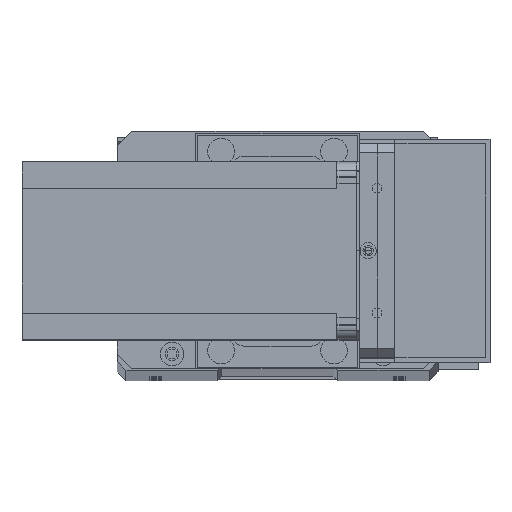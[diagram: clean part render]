
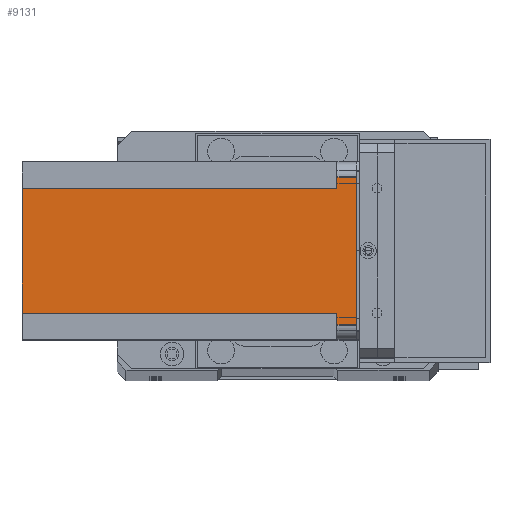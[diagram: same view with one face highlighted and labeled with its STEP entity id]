
A CAD part, top view. The second image highlights one B-rep face of the part: STEP entity #9131.
In plain terms, the highlighted planar face has unit normal (0, 0, 1) as drawn and (1, 0, 0) by its records, which use the part's own axes.
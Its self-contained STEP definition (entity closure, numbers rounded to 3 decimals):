
#40 = ORIENTED_EDGE ( 'NONE', *, *, #22605, .F. ) ;
#175 = VERTEX_POINT ( 'NONE', #1364 ) ;
#187 = DIRECTION ( 'NONE',  ( 0., 0., 1. ) ) ;
#461 = VECTOR ( 'NONE', #5961, 1000. ) ;
#1184 = LINE ( 'NONE', #25109, #13922 ) ;
#1364 = CARTESIAN_POINT ( 'NONE',  ( 60., 9., -112.5 ) ) ;
#2664 = VERTEX_POINT ( 'NONE', #5944 ) ;
#3176 = EDGE_CURVE ( 'NONE', #11532, #20315, #3982, .T. ) ;
#3388 = CARTESIAN_POINT ( 'NONE',  ( 60., 0., 0. ) ) ;
#3422 = DIRECTION ( 'NONE',  ( 0., 0., -1. ) ) ;
#3982 = LINE ( 'NONE', #25624, #17516 ) ;
#4490 = VERTEX_POINT ( 'NONE', #8053 ) ;
#4565 = LINE ( 'NONE', #12647, #22471 ) ;
#5944 = CARTESIAN_POINT ( 'NONE',  ( 60., 51., -6.5 ) ) ;
#5961 = DIRECTION ( 'NONE',  ( 0., 1., 0. ) ) ;
#6585 = LINE ( 'NONE', #20280, #18510 ) ;
#7679 = CARTESIAN_POINT ( 'NONE',  ( 60., 5., 0. ) ) ;
#7972 = ORIENTED_EDGE ( 'NONE', *, *, #11716, .T. ) ;
#8053 = CARTESIAN_POINT ( 'NONE',  ( 60., 51., -112.5 ) ) ;
#8275 = DIRECTION ( 'NONE',  ( 0., 0., -1. ) ) ;
#8469 = ORIENTED_EDGE ( 'NONE', *, *, #24293, .T. ) ;
#9131 = ADVANCED_FACE ( 'NONE', ( #23626 ), #11450, .T. ) ;
#9775 = VERTEX_POINT ( 'NONE', #32024 ) ;
#10034 = VERTEX_POINT ( 'NONE', #7679 ) ;
#10378 = DIRECTION ( 'NONE',  ( 0., -1., 0. ) ) ;
#11114 = ORIENTED_EDGE ( 'NONE', *, *, #14946, .F. ) ;
#11450 = PLANE ( 'NONE',  #20846 ) ;
#11532 = VERTEX_POINT ( 'NONE', #27817 ) ;
#11716 = EDGE_CURVE ( 'NONE', #10034, #20315, #11909, .T. ) ;
#11909 = LINE ( 'NONE', #18652, #13485 ) ;
#12647 = CARTESIAN_POINT ( 'NONE',  ( 60., 55., -112.5 ) ) ;
#13235 = ORIENTED_EDGE ( 'NONE', *, *, #3176, .F. ) ;
#13421 = EDGE_CURVE ( 'NONE', #14266, #9775, #4565, .T. ) ;
#13485 = VECTOR ( 'NONE', #3422, 1000. ) ;
#13922 = VECTOR ( 'NONE', #20090, 1000. ) ;
#13998 = DIRECTION ( 'NONE',  ( 0., 1., 0. ) ) ;
#14042 = VECTOR ( 'NONE', #187, 1000. ) ;
#14266 = VERTEX_POINT ( 'NONE', #20917 ) ;
#14946 = EDGE_CURVE ( 'NONE', #10034, #9775, #27550, .T. ) ;
#15203 = DIRECTION ( 'NONE',  ( 0., 0., 1. ) ) ;
#15446 = CARTESIAN_POINT ( 'NONE',  ( 60., 9., -112.5 ) ) ;
#15839 = CARTESIAN_POINT ( 'NONE',  ( 60., 51., -112.5 ) ) ;
#17117 = ORIENTED_EDGE ( 'NONE', *, *, #20246, .F. ) ;
#17516 = VECTOR ( 'NONE', #10378, 1000. ) ;
#18510 = VECTOR ( 'NONE', #22858, 1000. ) ;
#18652 = CARTESIAN_POINT ( 'NONE',  ( 60., 5., -112.5 ) ) ;
#19000 = CARTESIAN_POINT ( 'NONE',  ( 60., 0., -112.5 ) ) ;
#20090 = DIRECTION ( 'NONE',  ( 0., 1., 0. ) ) ;
#20246 = EDGE_CURVE ( 'NONE', #14266, #2664, #6585, .T. ) ;
#20280 = CARTESIAN_POINT ( 'NONE',  ( 60., 60., -6.5 ) ) ;
#20315 = VERTEX_POINT ( 'NONE', #30619 ) ;
#20423 = VECTOR ( 'NONE', #8275, 1000. ) ;
#20558 = EDGE_LOOP ( 'NONE', ( #17117, #27887, #11114, #7972, #13235, #20796, #8469, #40 ) ) ;
#20796 = ORIENTED_EDGE ( 'NONE', *, *, #29408, .F. ) ;
#20846 = AXIS2_PLACEMENT_3D ( 'NONE', #19000, #29257, #13998 ) ;
#20917 = CARTESIAN_POINT ( 'NONE',  ( 60., 55., -6.5 ) ) ;
#22471 = VECTOR ( 'NONE', #15203, 1000. ) ;
#22605 = EDGE_CURVE ( 'NONE', #2664, #4490, #27187, .T. ) ;
#22858 = DIRECTION ( 'NONE',  ( 0., -1., 0. ) ) ;
#23626 = FACE_OUTER_BOUND ( 'NONE', #20558, .T. ) ;
#24293 = EDGE_CURVE ( 'NONE', #175, #4490, #1184, .T. ) ;
#25109 = CARTESIAN_POINT ( 'NONE',  ( 60., 0., -112.5 ) ) ;
#25624 = CARTESIAN_POINT ( 'NONE',  ( 60., 0., -6.5 ) ) ;
#27187 = LINE ( 'NONE', #15839, #20423 ) ;
#27550 = LINE ( 'NONE', #3388, #461 ) ;
#27609 = LINE ( 'NONE', #15446, #14042 ) ;
#27817 = CARTESIAN_POINT ( 'NONE',  ( 60., 9., -6.5 ) ) ;
#27887 = ORIENTED_EDGE ( 'NONE', *, *, #13421, .T. ) ;
#29257 = DIRECTION ( 'NONE',  ( 1., 0., 0. ) ) ;
#29408 = EDGE_CURVE ( 'NONE', #175, #11532, #27609, .T. ) ;
#30619 = CARTESIAN_POINT ( 'NONE',  ( 60., 5., -6.5 ) ) ;
#32024 = CARTESIAN_POINT ( 'NONE',  ( 60., 55., 0. ) ) ;
